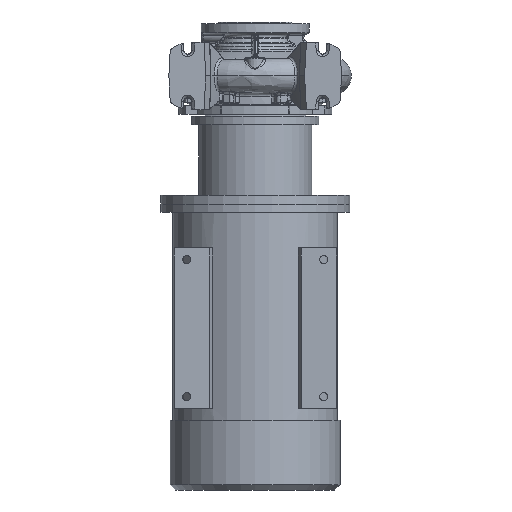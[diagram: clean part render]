
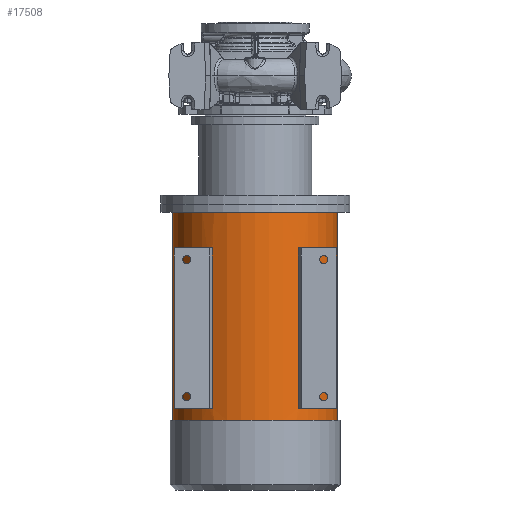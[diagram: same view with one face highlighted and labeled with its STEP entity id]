
A CAD part, front view. The second image highlights one B-rep face of the part: STEP entity #17508.
In plain terms, the highlighted cylindrical face has radius 152.5 mm (diameter 305 mm), a partial arc.
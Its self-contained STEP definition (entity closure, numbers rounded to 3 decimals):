
#360 = CARTESIAN_POINT ( 'NONE',  ( 0., 0., -615.8 ) ) ;
#450 = VERTEX_POINT ( 'NONE', #25507 ) ;
#869 = EDGE_CURVE ( 'NONE', #53339, #21824, #3691, .T. ) ;
#2827 = VECTOR ( 'NONE', #50497, 1000. ) ;
#3613 = EDGE_CURVE ( 'NONE', #13800, #21824, #69265, .T. ) ;
#3691 = LINE ( 'NONE', #13226, #34316 ) ;
#4159 = ORIENTED_EDGE ( 'NONE', *, *, #30292, .F. ) ;
#4436 = DIRECTION ( 'NONE',  ( 1., 0., 0. ) ) ;
#4491 = VERTEX_POINT ( 'NONE', #26214 ) ;
#4691 = CARTESIAN_POINT ( 'NONE',  ( 0., 0., -318.8 ) ) ;
#6267 = EDGE_CURVE ( 'NONE', #58634, #17244, #27102, .T. ) ;
#7000 = EDGE_LOOP ( 'NONE', ( #7004, #20395, #4159, #39251 ) ) ;
#7004 = ORIENTED_EDGE ( 'NONE', *, *, #6267, .F. ) ;
#7326 = EDGE_CURVE ( 'NONE', #15632, #53339, #15639, .T. ) ;
#8095 = FACE_BOUND ( 'NONE', #7000, .T. ) ;
#8492 = CIRCLE ( 'NONE', #24068, 152.5 ) ;
#9857 = LINE ( 'NONE', #49552, #2827 ) ;
#10196 = CARTESIAN_POINT ( 'NONE',  ( -79.357, -130.226, -615.8 ) ) ;
#11323 = DIRECTION ( 'NONE',  ( 1., 0., 0. ) ) ;
#11673 = CARTESIAN_POINT ( 'NONE',  ( 0., 0., -318.8 ) ) ;
#13226 = CARTESIAN_POINT ( 'NONE',  ( -152.5, 0., -767.3 ) ) ;
#13800 = VERTEX_POINT ( 'NONE', #63559 ) ;
#14126 = DIRECTION ( 'NONE',  ( 0., 0., -1. ) ) ;
#15632 = VERTEX_POINT ( 'NONE', #58262 ) ;
#15639 = CIRCLE ( 'NONE', #49836, 152.5 ) ;
#16118 = VERTEX_POINT ( 'NONE', #43940 ) ;
#17244 = VERTEX_POINT ( 'NONE', #66471 ) ;
#17258 = AXIS2_PLACEMENT_3D ( 'NONE', #50694, #22988, #39655 ) ;
#17265 = EDGE_CURVE ( 'NONE', #42621, #4491, #68544, .T. ) ;
#17508 = ADVANCED_FACE ( 'NONE', ( #60735, #30022, #8095 ), #28254, .T. ) ;
#17954 = CARTESIAN_POINT ( 'NONE',  ( -79.357, -130.226, -767.3 ) ) ;
#18367 = DIRECTION ( 'NONE',  ( 0., 0., -1. ) ) ;
#18593 = CARTESIAN_POINT ( 'NONE',  ( 0., 0., -638.3 ) ) ;
#20395 = ORIENTED_EDGE ( 'NONE', *, *, #42415, .T. ) ;
#20646 = CARTESIAN_POINT ( 'NONE',  ( 89.37, -123.569, -318.8 ) ) ;
#20933 = CARTESIAN_POINT ( 'NONE',  ( 0., 0., -252.3 ) ) ;
#21049 = DIRECTION ( 'NONE',  ( 0., 0., -1. ) ) ;
#21824 = VERTEX_POINT ( 'NONE', #55979 ) ;
#22988 = DIRECTION ( 'NONE',  ( 0., 0., 1. ) ) ;
#24068 = AXIS2_PLACEMENT_3D ( 'NONE', #11673, #62186, #28603 ) ;
#24974 = ORIENTED_EDGE ( 'NONE', *, *, #39286, .T. ) ;
#25507 = CARTESIAN_POINT ( 'NONE',  ( -89.37, -123.569, -318.8 ) ) ;
#25720 = DIRECTION ( 'NONE',  ( 0., 0., 1. ) ) ;
#26214 = CARTESIAN_POINT ( 'NONE',  ( 89.37, -123.569, -615.8 ) ) ;
#26374 = DIRECTION ( 'NONE',  ( 0., 0., -1. ) ) ;
#26524 = ORIENTED_EDGE ( 'NONE', *, *, #7326, .T. ) ;
#27083 = DIRECTION ( 'NONE',  ( -1., 0., 0. ) ) ;
#27102 = LINE ( 'NONE', #17954, #57733 ) ;
#28254 = CYLINDRICAL_SURFACE ( 'NONE', #55420, 152.5 ) ;
#28584 = CARTESIAN_POINT ( 'NONE',  ( 79.357, -130.226, -318.8 ) ) ;
#28603 = DIRECTION ( 'NONE',  ( -1., 0., 0. ) ) ;
#28904 = AXIS2_PLACEMENT_3D ( 'NONE', #360, #44656, #11323 ) ;
#29015 = AXIS2_PLACEMENT_3D ( 'NONE', #4691, #21049, #4436 ) ;
#29094 = AXIS2_PLACEMENT_3D ( 'NONE', #18593, #57822, #47750 ) ;
#30022 = FACE_BOUND ( 'NONE', #36727, .T. ) ;
#30042 = EDGE_LOOP ( 'NONE', ( #59948, #26524, #64814, #32596 ) ) ;
#30085 = EDGE_CURVE ( 'NONE', #30554, #4491, #68636, .T. ) ;
#30292 = EDGE_CURVE ( 'NONE', #450, #16118, #53761, .T. ) ;
#30554 = VERTEX_POINT ( 'NONE', #20646 ) ;
#30615 = CARTESIAN_POINT ( 'NONE',  ( 89.37, -123.569, -767.3 ) ) ;
#31919 = CIRCLE ( 'NONE', #28904, 152.5 ) ;
#32596 = ORIENTED_EDGE ( 'NONE', *, *, #3613, .F. ) ;
#34316 = VECTOR ( 'NONE', #18367, 1000. ) ;
#36727 = EDGE_LOOP ( 'NONE', ( #52109, #43172, #24974, #51027 ) ) ;
#37893 = DIRECTION ( 'NONE',  ( 0., 0., -1. ) ) ;
#38453 = CARTESIAN_POINT ( 'NONE',  ( -152.5, 0., -252.3 ) ) ;
#38816 = VECTOR ( 'NONE', #42563, 1000. ) ;
#39251 = ORIENTED_EDGE ( 'NONE', *, *, #45905, .F. ) ;
#39286 = EDGE_CURVE ( 'NONE', #57174, #30554, #8492, .T. ) ;
#39655 = DIRECTION ( 'NONE',  ( -1., 0., 0. ) ) ;
#40734 = CARTESIAN_POINT ( 'NONE',  ( 79.357, -130.226, -615.8 ) ) ;
#42415 = EDGE_CURVE ( 'NONE', #58634, #16118, #31919, .T. ) ;
#42563 = DIRECTION ( 'NONE',  ( 0., 0., -1. ) ) ;
#42621 = VERTEX_POINT ( 'NONE', #40734 ) ;
#42804 = CARTESIAN_POINT ( 'NONE',  ( -89.37, -123.569, -767.3 ) ) ;
#43172 = ORIENTED_EDGE ( 'NONE', *, *, #70791, .T. ) ;
#43645 = LINE ( 'NONE', #58264, #47982 ) ;
#43940 = CARTESIAN_POINT ( 'NONE',  ( -89.37, -123.569, -615.8 ) ) ;
#44656 = DIRECTION ( 'NONE',  ( 0., 0., -1. ) ) ;
#45905 = EDGE_CURVE ( 'NONE', #17244, #450, #62055, .T. ) ;
#46251 = EDGE_CURVE ( 'NONE', #15632, #13800, #43645, .T. ) ;
#47750 = DIRECTION ( 'NONE',  ( -1., 0., 0. ) ) ;
#47982 = VECTOR ( 'NONE', #14126, 1000. ) ;
#48207 = DIRECTION ( 'NONE',  ( -1., 0., 0. ) ) ;
#49552 = CARTESIAN_POINT ( 'NONE',  ( 79.357, -130.226, -767.3 ) ) ;
#49836 = AXIS2_PLACEMENT_3D ( 'NONE', #20933, #26374, #27083 ) ;
#50497 = DIRECTION ( 'NONE',  ( 0., 0., 1. ) ) ;
#50694 = CARTESIAN_POINT ( 'NONE',  ( 0., 0., -615.8 ) ) ;
#51027 = ORIENTED_EDGE ( 'NONE', *, *, #30085, .T. ) ;
#52109 = ORIENTED_EDGE ( 'NONE', *, *, #17265, .F. ) ;
#53157 = DIRECTION ( 'NONE',  ( 0., 0., -1. ) ) ;
#53339 = VERTEX_POINT ( 'NONE', #38453 ) ;
#53761 = LINE ( 'NONE', #42804, #38816 ) ;
#54623 = VECTOR ( 'NONE', #53157, 1000. ) ;
#55420 = AXIS2_PLACEMENT_3D ( 'NONE', #65894, #37893, #48207 ) ;
#55979 = CARTESIAN_POINT ( 'NONE',  ( -152.5, 0., -638.3 ) ) ;
#57174 = VERTEX_POINT ( 'NONE', #28584 ) ;
#57733 = VECTOR ( 'NONE', #25720, 1000. ) ;
#57822 = DIRECTION ( 'NONE',  ( 0., 0., -1. ) ) ;
#58262 = CARTESIAN_POINT ( 'NONE',  ( 152.5, 0., -252.3 ) ) ;
#58264 = CARTESIAN_POINT ( 'NONE',  ( 152.5, 0., -767.3 ) ) ;
#58634 = VERTEX_POINT ( 'NONE', #10196 ) ;
#59948 = ORIENTED_EDGE ( 'NONE', *, *, #46251, .F. ) ;
#60735 = FACE_OUTER_BOUND ( 'NONE', #30042, .T. ) ;
#62055 = CIRCLE ( 'NONE', #29015, 152.5 ) ;
#62186 = DIRECTION ( 'NONE',  ( 0., 0., 1. ) ) ;
#63559 = CARTESIAN_POINT ( 'NONE',  ( 152.5, 0., -638.3 ) ) ;
#64814 = ORIENTED_EDGE ( 'NONE', *, *, #869, .T. ) ;
#65894 = CARTESIAN_POINT ( 'NONE',  ( 0., 0., -767.3 ) ) ;
#66471 = CARTESIAN_POINT ( 'NONE',  ( -79.357, -130.226, -318.8 ) ) ;
#68544 = CIRCLE ( 'NONE', #17258, 152.5 ) ;
#68636 = LINE ( 'NONE', #30615, #54623 ) ;
#69265 = CIRCLE ( 'NONE', #29094, 152.5 ) ;
#70791 = EDGE_CURVE ( 'NONE', #42621, #57174, #9857, .T. ) ;
